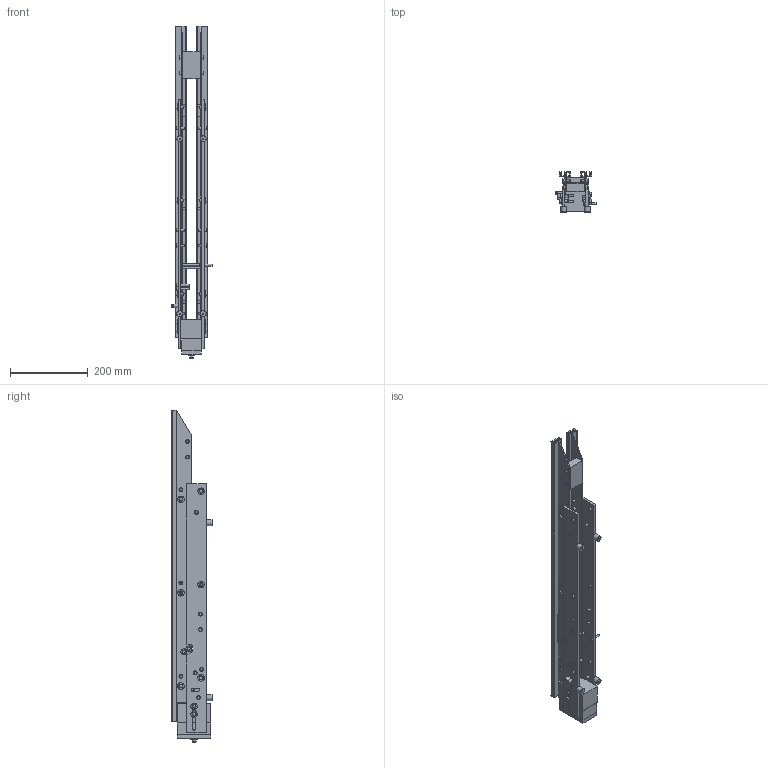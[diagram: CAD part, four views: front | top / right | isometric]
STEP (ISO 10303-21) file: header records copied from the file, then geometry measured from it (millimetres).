
FILE_DESCRIPTION(/* description */ ('STEP AP203'),/* implementation_level */ '2;1');
FILE_NAME(/* name */ 'Linearförderer SLL400-800 B CE 200V_50Hz',/* time_stamp */ '2024-09-29T17:00:30+02:00',/* author */ ('License CC BY-ND 4.0'),/* organization */ ('CADENAS'),/* preprocessor_version */ 'ST-DEVELOPER v19.3',/* originating_system */ 'PARTsolutions',/* authorisation */ ' ');
FILE_SCHEMA (('CONFIG_CONTROL_DESIGN'));
Length unit declared in the file: millimetre
Products named in the file (95): Linearförderer SLL400-800 B CE 200V/50Hz; Linearförderer SLL400-800 B CE 200V/50Hz_PART1; Linearförderer SLL400-800 B CE 200V/50Hz_PART2; Linearförderer SLL400-800 B CE 200V/50Hz_PART3; Linearförderer SLL400-800 B CE 200V/50Hz_PART4; Linearförderer SLL400-800 B CE 200V/50Hz_PART5; Linearförderer SLL400-800 B CE 200V/50Hz_PART6; Linearförderer SLL400-800 B CE 200V/50Hz_PART7; Linearförderer SLL400-800 B CE 200V/50Hz_PART8; Linearförderer SLL400-800 B CE 200V/50Hz_PART9; Linearförderer SLL400-800 B CE 200V/50Hz_PART10; Linearförderer SLL400-800 B CE 200V/50Hz_PART11; Linearförderer SLL400-800 B CE 200V/50Hz_PART12; Linearförderer SLL400-800 B CE 200V/50Hz_PART13; Linearförderer SLL400-800 B CE 200V/50Hz_PART14; Linearförderer SLL400-800 B CE 200V/50Hz_PART15; Linearförderer SLL400-800 B CE 200V/50Hz_PART16; Linearförderer SLL400-800 B CE 200V/50Hz_PART17; Linearförderer SLL400-800 B CE 200V/50Hz_PART18; Linearförderer SLL400-800 B CE 200V/50Hz_PART19; Linearförderer SLL400-800 B CE 200V/50Hz_PART20; Linearförderer SLL400-800 B CE 200V/50Hz_PART21; Linearförderer SLL400-800 B CE 200V/50Hz_PART22; Linearförderer SLL400-800 B CE 200V/50Hz_PART23; Linearförderer SLL400-800 B CE 200V/50Hz_PART24; Linearförderer SLL400-800 B CE 200V/50Hz_PART25; Linearförderer SLL400-800 B CE 200V/50Hz_PART26; Linearförderer SLL400-800 B CE 200V/50Hz_PART27; Linearförderer SLL400-800 B CE 200V/50Hz_PART28; Linearförderer SLL400-800 B CE 200V/50Hz_PART29; Linearförderer SLL400-800 B CE 200V/50Hz_PART30; Linearförderer SLL400-800 B CE 200V/50Hz_PART31; Linearförderer SLL400-800 B CE 200V/50Hz_PART32; Linearförderer SLL400-800 B CE 200V/50Hz_PART33; Linearförderer SLL400-800 B CE 200V/50Hz_PART34; Linearförderer SLL400-800 B CE 200V/50Hz_PART35; Linearförderer SLL400-800 B CE 200V/50Hz_PART36; Linearförderer SLL400-800 B CE 200V/50Hz_PART37; Linearförderer SLL400-800 B CE 200V/50Hz_PART38; Linearförderer SLL400-800 B CE 200V/50Hz_PART39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
Assembly tree (94 placements, depth 2):
  Linearförderer SLL400-800 B CE 200V/50Hz
    Linearförderer SLL400-800 B CE 200V/50Hz_PART1
    Linearförderer SLL400-800 B CE 200V/50Hz_PART2
    Linearförderer SLL400-800 B CE 200V/50Hz_PART3
    Linearförderer SLL400-800 B CE 200V/50Hz_PART4
    Linearförderer SLL400-800 B CE 200V/50Hz_PART5
    Linearförderer SLL400-800 B CE 200V/50Hz_PART6
    Linearförderer SLL400-800 B CE 200V/50Hz_PART7
    Linearförderer SLL400-800 B CE 200V/50Hz_PART8
    Linearförderer SLL400-800 B CE 200V/50Hz_PART9
    Linearförderer SLL400-800 B CE 200V/50Hz_PART10
    Linearförderer SLL400-800 B CE 200V/50Hz_PART11
    Linearförderer SLL400-800 B CE 200V/50Hz_PART12
    Linearförderer SLL400-800 B CE 200V/50Hz_PART13
    Linearförderer SLL400-800 B CE 200V/50Hz_PART14
    Linearförderer SLL400-800 B CE 200V/50Hz_PART15
    Linearförderer SLL400-800 B CE 200V/50Hz_PART16
    Linearförderer SLL400-800 B CE 200V/50Hz_PART17
    Linearförderer SLL400-800 B CE 200V/50Hz_PART18
    Linearförderer SLL400-800 B CE 200V/50Hz_PART19
    Linearförderer SLL400-800 B CE 200V/50Hz_PART20
    Linearförderer SLL400-800 B CE 200V/50Hz_PART21
    Linearförderer SLL400-800 B CE 200V/50Hz_PART22
    Linearförderer SLL400-800 B CE 200V/50Hz_PART23
    Linearförderer SLL400-800 B CE 200V/50Hz_PART24
    Linearförderer SLL400-800 B CE 200V/50Hz_PART25
    Linearförderer SLL400-800 B CE 200V/50Hz_PART26
    Linearförderer SLL400-800 B CE 200V/50Hz_PART27
    Linearförderer SLL400-800 B CE 200V/50Hz_PART28
    Linearförderer SLL400-800 B CE 200V/50Hz_PART29
    Linearförderer SLL400-800 B CE 200V/50Hz_PART30
    Linearförderer SLL400-800 B CE 200V/50Hz_PART31
    Linearförderer SLL400-800 B CE 200V/50Hz_PART32
    Linearförderer SLL400-800 B CE 200V/50Hz_PART33
    Linearförderer SLL400-800 B CE 200V/50Hz_PART34
    Linearförderer SLL400-800 B CE 200V/50Hz_PART35
    Linearförderer SLL400-800 B CE 200V/50Hz_PART36
    Linearförderer SLL400-800 B CE 200V/50Hz_PART37
    Linearförderer SLL400-800 B CE 200V/50Hz_PART38
    Linearförderer SLL400-800 B CE 200V/50Hz_PART39
    Linearförderer SLL400-800 B CE 200V/50Hz_PART40
    Linearförderer SLL400-800 B CE 200V/50Hz_PART41
    Linearförderer SLL400-800 B CE 200V/50Hz_PART42
    Linearförderer SLL400-800 B CE 200V/50Hz_PART43
    Linearförderer SLL400-800 B CE 200V/50Hz_PART44
    Linearförderer SLL400-800 B CE 200V/50Hz_PART45
    Linearförderer SLL400-800 B CE 200V/50Hz_PART46
    Linearförderer SLL400-800 B CE 200V/50Hz_PART47
    Linearförderer SLL400-800 B CE 200V/50Hz_PART48
    Linearförderer SLL400-800 B CE 200V/50Hz_PART49
    Linearförderer SLL400-800 B CE 200V/50Hz_PART50
    Linearförderer SLL400-800 B CE 200V/50Hz_PART51
    Linearförderer SLL400-800 B CE 200V/50Hz_PART52
    Linearförderer SLL400-800 B CE 200V/50Hz_PART53
    Linearförderer SLL400-800 B CE 200V/50Hz_PART54
    Linearförderer SLL400-800 B CE 200V/50Hz_PART55
    Linearförderer SLL400-800 B CE 200V/50Hz_PART56
    Linearförderer SLL400-800 B CE 200V/50Hz_PART57
    Linearförderer SLL400-800 B CE 200V/50Hz_PART58
    Linearförderer SLL400-800 B CE 200V/50Hz_PART59
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Bounding box: 103.54 x 103 x 854 mm (x, y, z)
Volume: 1322484.3 mm3; surface area: 588944.1 mm2
Topology: 94 solids, 94 shells, 858 faces, 1584 edges, 972 vertices
Faces by surface type: plane 402, cone 207, cylinder 166, torus 82, bspline 1
Full cylindrical faces by diameter (mm): 3 x1, 3.3 x4, 4 x5, 5 x23, 6 x17, 6.88 x1, 7 x1, 8.5 x22, 10 x37, 15 x6, 17 x17
Entity records: 21068 total; most frequent: DIRECTION 3680, CARTESIAN_POINT 3364, ORIENTED_EDGE 2416, AXIS2_PLACEMENT_3D 1574, EDGE_LOOP 1296, FACE_BOUND 1296, EDGE_CURVE 1208, VERTEX_POINT 972
